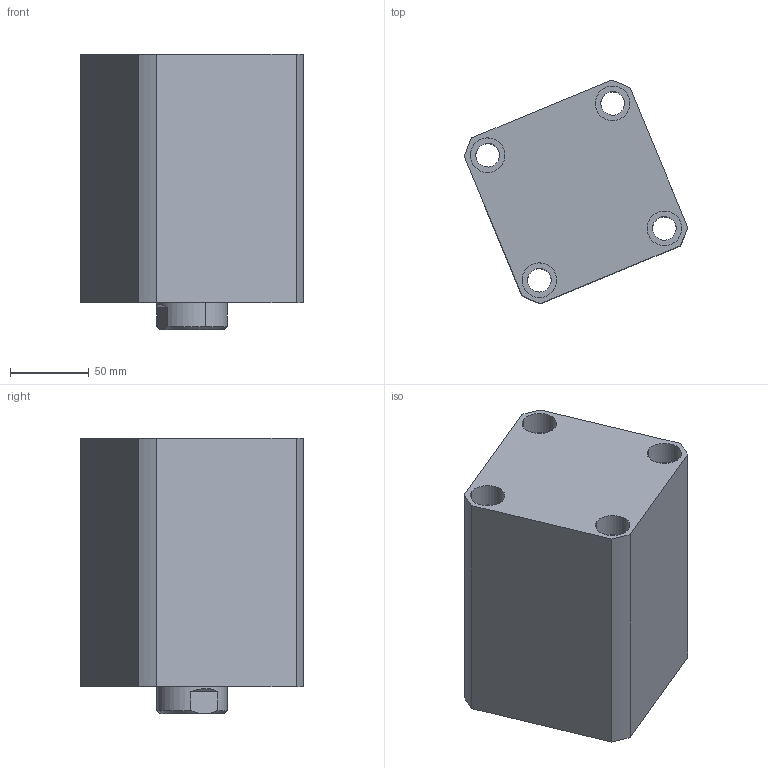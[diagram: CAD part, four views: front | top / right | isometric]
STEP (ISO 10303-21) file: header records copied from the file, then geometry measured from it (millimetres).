
FILE_DESCRIPTION (( 'STEP AP214' ), '1' );
FILE_NAME ('chtb-sd80x80n_asm.STEP', '2018-05-26T04:24:10', ( 'Windows' ), ( 'Microsoft' ), 'SwSTEP 2.0', 'SolidWorks 2015', '' );
FILE_SCHEMA (( 'AUTOMOTIVE_DESIGN' ));
Length unit declared in the file: millimetre
Products named in the file (4): CHTB-SD80X80NHSG; CHTB-SD80X80NBT; CHTB-SD80QG; chtb-sd80x80n_asm
Assembly tree (3 placements, depth 2):
  chtb-sd80x80n_asm
    CHTB-SD80QG
    CHTB-SD80X80NBT
    CHTB-SD80X80NHSG
Bounding box: 142.06 x 142.06 x 175 mm (x, y, z)
Volume: 1601282.9 mm3; surface area: 231151.2 mm2
Topology: 3 solids, 3 shells, 192 faces, 510 edges, 341 vertices
Faces by surface type: cylinder 103, plane 37, cone 20, torus 18, bspline 14
Entity records: 15144 total; most frequent: CARTESIAN_POINT 10435, ORIENTED_EDGE 1008, DIRECTION 889, EDGE_CURVE 504, AXIS2_PLACEMENT_3D 374, VERTEX_POINT 341, EDGE_LOOP 229, FACE_OUTER_BOUND 192
